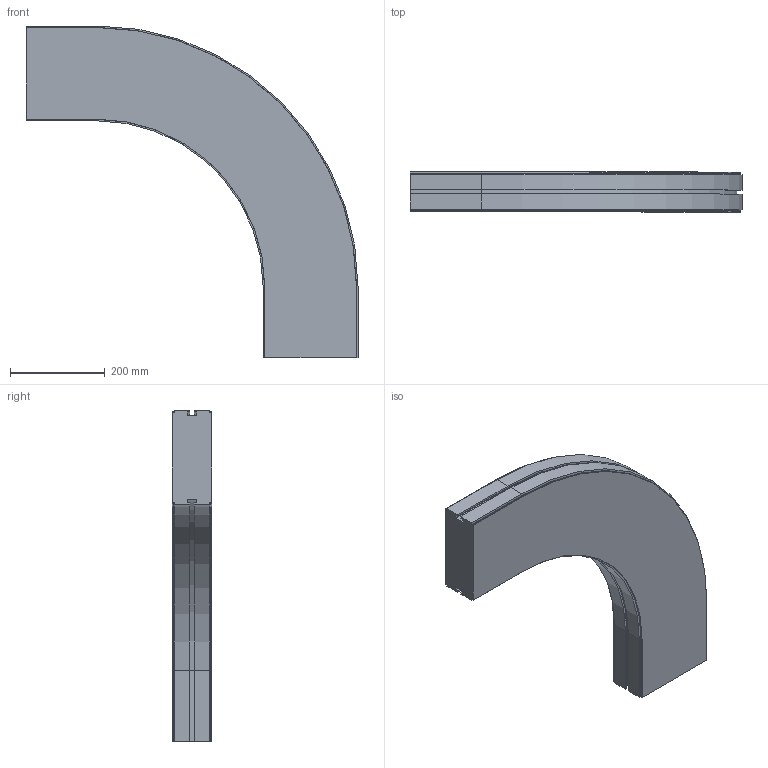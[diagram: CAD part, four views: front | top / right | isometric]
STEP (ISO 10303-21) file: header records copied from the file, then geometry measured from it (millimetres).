
FILE_DESCRIPTION (( 'STEP AP214' ), '1' );
FILE_NAME ('CS SL Horizontaalbocht.200 90° R450.STEP', '2017-02-08T07:35:44', ( '' ), ( '' ), 'SwSTEP 2.0', 'SolidWorks 2016', '' );
FILE_SCHEMA (( 'AUTOMOTIVE_DESIGN' ));
Length unit declared in the file: millimetre
Products named in the file (1): CS SL Horizontaalbocht.200 90° R450
Bounding box: 700 x 84 x 700 mm (x, y, z)
Volume: 16476864.3 mm3; surface area: 711311.3 mm2
Topology: 1 solids, 1 shells, 98 faces, 272 edges, 176 vertices
Faces by surface type: plane 72, cylinder 18, cone 8
Entity records: 3126 total; most frequent: CARTESIAN_POINT 547, ORIENTED_EDGE 544, DIRECTION 514, EDGE_CURVE 272, LINE 228, VECTOR 228, VERTEX_POINT 176, AXIS2_PLACEMENT_3D 143
